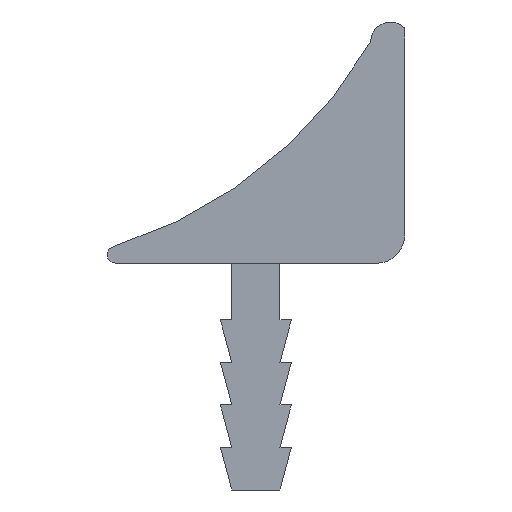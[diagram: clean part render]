
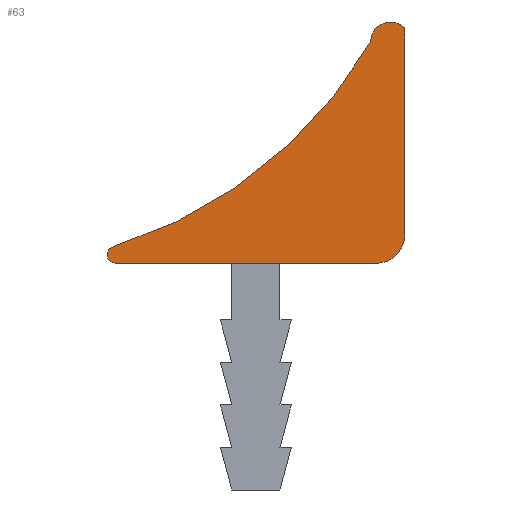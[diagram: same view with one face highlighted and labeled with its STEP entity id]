
A CAD part, left-side view. The second image highlights one B-rep face of the part: STEP entity #63.
In plain terms, the highlighted planar face has unit normal (-1, 0, 0).
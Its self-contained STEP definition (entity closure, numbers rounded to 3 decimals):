
#63 = ADVANCED_FACE( '', ( #143 ), #144, .F. );
#143 = FACE_OUTER_BOUND( '', #238, .T. );
#144 = PLANE( '', #239 );
#238 = EDGE_LOOP( '', ( #354, #355, #356, #357, #358, #359 ) );
#239 = AXIS2_PLACEMENT_3D( '', #360, #361, #362 );
#354 = ORIENTED_EDGE( '', *, *, #610, .F. );
#355 = ORIENTED_EDGE( '', *, *, #611, .F. );
#356 = ORIENTED_EDGE( '', *, *, #612, .F. );
#357 = ORIENTED_EDGE( '', *, *, #589, .F. );
#358 = ORIENTED_EDGE( '', *, *, #613, .F. );
#359 = ORIENTED_EDGE( '', *, *, #614, .T. );
#360 = CARTESIAN_POINT( '', ( -30., 8.923, 23.868 ) );
#361 = DIRECTION( '', ( 1., 0., 0. ) );
#362 = DIRECTION( '', ( 0., 0., -1. ) );
#589 = EDGE_CURVE( '', #700, #701, #702, .T. );
#610 = EDGE_CURVE( '', #737, #738, #739, .T. );
#611 = EDGE_CURVE( '', #740, #737, #741, .T. );
#612 = EDGE_CURVE( '', #701, #740, #742, .T. );
#613 = EDGE_CURVE( '', #743, #700, #744, .T. );
#614 = EDGE_CURVE( '', #743, #738, #745, .T. );
#700 = VERTEX_POINT( '', #863 );
#701 = VERTEX_POINT( '', #864 );
#702 = LINE( '', #865, #866 );
#737 = VERTEX_POINT( '', #913 );
#738 = VERTEX_POINT( '', #914 );
#739 = CIRCLE( '', #915, 0.3 );
#740 = VERTEX_POINT( '', #916 );
#741 = LINE( '', #917, #918 );
#742 = CIRCLE( '', #919, 1. );
#743 = VERTEX_POINT( '', #920 );
#744 = CIRCLE( '', #921, 0.7 );
#745 = CIRCLE( '', #922, 16. );
#863 = CARTESIAN_POINT( '', ( -30., -6.1, 16.3 ) );
#864 = CARTESIAN_POINT( '', ( -30., -6.1, 9. ) );
#865 = CARTESIAN_POINT( '', ( -30., -6.1, 16.3 ) );
#866 = VECTOR( '', #1082, 1000. );
#913 = CARTESIAN_POINT( '', ( -30., 4.1, 8. ) );
#914 = CARTESIAN_POINT( '', ( -30., 4.162, 8.593 ) );
#915 = AXIS2_PLACEMENT_3D( '', #1107, #1108, #1109 );
#916 = CARTESIAN_POINT( '', ( -30., -5.1, 8. ) );
#917 = CARTESIAN_POINT( '', ( -30., -5.1, 8. ) );
#918 = VECTOR( '', #1110, 1000. );
#919 = AXIS2_PLACEMENT_3D( '', #1111, #1112, #1113 );
#920 = CARTESIAN_POINT( '', ( -30., -4.9, 15.81 ) );
#921 = AXIS2_PLACEMENT_3D( '', #1114, #1115, #1116 );
#922 = AXIS2_PLACEMENT_3D( '', #1117, #1118, #1119 );
#1082 = DIRECTION( '', ( 0., 0., -1. ) );
#1107 = CARTESIAN_POINT( '', ( -30., 4.098, 8.3 ) );
#1108 = DIRECTION( '', ( 1., 0., 0. ) );
#1109 = DIRECTION( '', ( 0., 0., -1. ) );
#1110 = DIRECTION( '', ( 0., 1., 0. ) );
#1111 = CARTESIAN_POINT( '', ( -30., -5.1, 9. ) );
#1112 = DIRECTION( '', ( 1., 0., 0. ) );
#1113 = DIRECTION( '', ( 0., 0., -1. ) );
#1114 = CARTESIAN_POINT( '', ( -30., -5.6, 15.81 ) );
#1115 = DIRECTION( '', ( 1., 0., 0. ) );
#1116 = DIRECTION( '', ( 0., 0., -1. ) );
#1117 = CARTESIAN_POINT( '', ( -30., 8.923, 23.868 ) );
#1118 = DIRECTION( '', ( 1., 0., 0. ) );
#1119 = DIRECTION( '', ( 0., 0., -1. ) );
